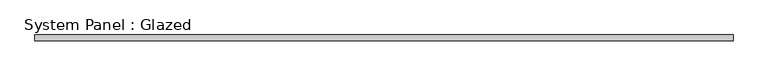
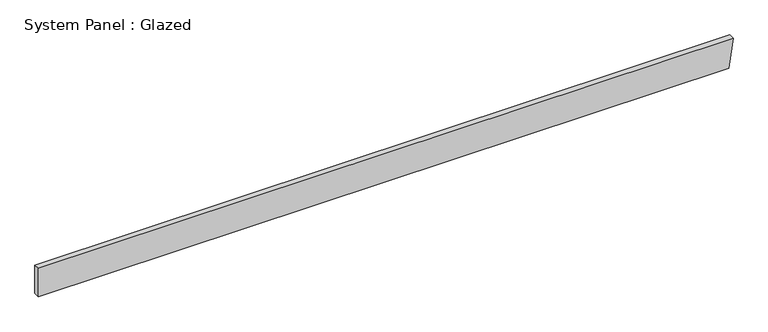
"""IFC4 building model written with IfcOpenShell, lengths in millimetres: plate geometry, System Panel : Glazed."""

from ifc_helpers import new_model, si_unit, frame, origin, place, context, project, spatial, polyline, outline, extrude, source, transform, mapped, element, save


def system_panel_glazed_556b931d(model_context):
    return source(origin(), model_context, "Body", "SweptSolid", [
        extrude(outline(polyline([(0.0, -1523.9999998), (0.0, 1505.2699428), (131.51448, 1523.9999998), (131.51448, -1523.9999998), (0.0, -1523.9999998)])), frame((0.0, 19.05, 0.0), z_axis=(0.0, 1.0, 0.0), x_axis=(0.0, 0.0, 1.0)), (0.0, 0.0, 1.0), 25.4),
    ])


if __name__ == "__main__":
    model = new_model("IFC4")
    model_context = context("Model", 3, world=origin())
    ifc_project = project(units=[si_unit("LENGTHUNIT", "METRE", prefix="MILLI")], contexts=[model_context])
    site = spatial("IfcSite", under=ifc_project)
    building = spatial("IfcBuilding", under=site)
    placement = place(None, origin())
    system_panel_glazed_shape = system_panel_glazed_556b931d(model_context)
    element("IfcPlate", 1, ObjectType="System Panel : Glazed", at=placement, inside=building, context=model_context, shape_type="MappedRepresentation", body=[
        mapped(system_panel_glazed_shape, transform((0.0, 0.0, 0.0), x_axis=(1.0, 0.0, 0.0), y_axis=(0.0, 1.0, 0.0), z_axis=(0.0, 0.0, 1.0))),
    ])
    save(model, "model.ifc")
